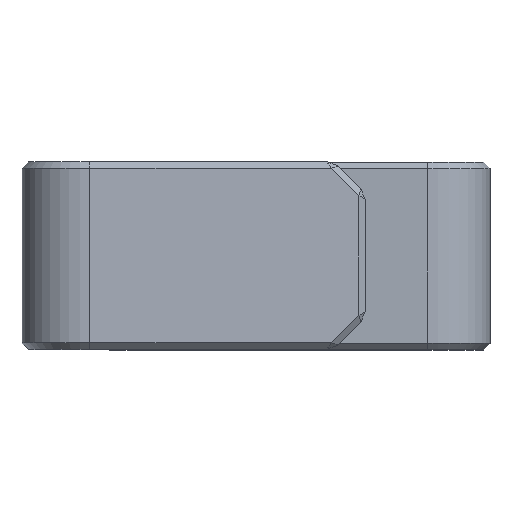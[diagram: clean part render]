
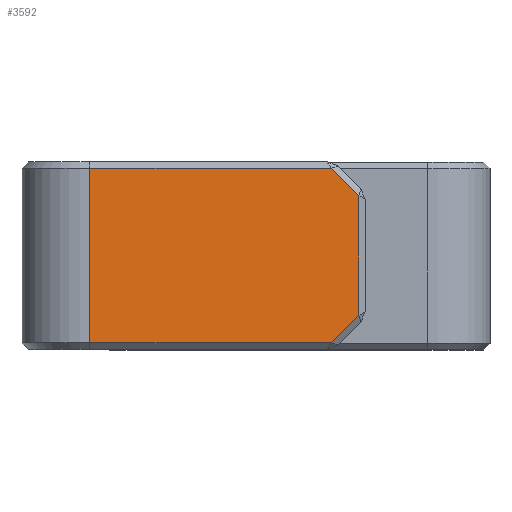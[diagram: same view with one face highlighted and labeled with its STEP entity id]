
A CAD part, top view. The second image highlights one B-rep face of the part: STEP entity #3592.
In plain terms, the highlighted planar face has unit normal (0.087, 0, 0.996).
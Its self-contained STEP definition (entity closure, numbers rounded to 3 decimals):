
#163=PLANE('',#3856);
#353=FACE_OUTER_BOUND('',#575,.T.);
#575=EDGE_LOOP('',(#2986,#2987,#2988,#2989,#2990,#2991));
#1004=LINE('',#7099,#1375);
#1006=LINE('',#7102,#1377);
#1011=LINE('',#7110,#1382);
#1022=LINE('',#7126,#1393);
#1031=LINE('',#7142,#1402);
#1046=LINE('',#7521,#1417);
#1375=VECTOR('',#4502,10.);
#1377=VECTOR('',#4506,10.);
#1382=VECTOR('',#4517,10.);
#1393=VECTOR('',#4538,10.);
#1402=VECTOR('',#4557,10.);
#1417=VECTOR('',#4596,10.);
#1660=VERTEX_POINT('',#6869);
#1681=VERTEX_POINT('',#6941);
#1692=VERTEX_POINT('',#6967);
#1718=VERTEX_POINT('',#7069);
#1723=VERTEX_POINT('',#7095);
#1725=VERTEX_POINT('',#7140);
#2141=EDGE_CURVE('',#1723,#1718,#1004,.T.);
#2143=EDGE_CURVE('',#1718,#1692,#1006,.T.);
#2148=EDGE_CURVE('',#1692,#1681,#1011,.T.);
#2159=EDGE_CURVE('',#1681,#1660,#1022,.T.);
#2168=EDGE_CURVE('',#1660,#1725,#1031,.T.);
#2192=EDGE_CURVE('',#1725,#1723,#1046,.T.);
#2986=ORIENTED_EDGE('',*,*,#2168,.F.);
#2987=ORIENTED_EDGE('',*,*,#2159,.F.);
#2988=ORIENTED_EDGE('',*,*,#2148,.F.);
#2989=ORIENTED_EDGE('',*,*,#2143,.F.);
#2990=ORIENTED_EDGE('',*,*,#2141,.F.);
#2991=ORIENTED_EDGE('',*,*,#2192,.F.);
#3592=ADVANCED_FACE('',(#353),#163,.T.);
#3856=AXIS2_PLACEMENT_3D('',#7520,#4594,#4595);
#4502=DIRECTION('',(0.996,0.,-0.087));
#4506=DIRECTION('',(0.706,-0.706,-0.062));
#4517=DIRECTION('',(0.,-1.,0.));
#4538=DIRECTION('',(-0.706,-0.706,0.062));
#4557=DIRECTION('',(-0.996,0.,0.087));
#4594=DIRECTION('center_axis',(0.087,0.,0.996));
#4595=DIRECTION('ref_axis',(0.996,0.,-0.087));
#4596=DIRECTION('',(0.,1.,0.));
#6869=CARTESIAN_POINT('',(99.588,63.123,48.662));
#6941=CARTESIAN_POINT('',(104.004,67.538,48.275));
#6967=CARTESIAN_POINT('',(104.004,86.708,48.275));
#7069=CARTESIAN_POINT('',(99.588,91.123,48.662));
#7095=CARTESIAN_POINT('',(60.872,91.123,52.049));
#7099=CARTESIAN_POINT('',(70.8,91.123,51.18));
#7102=CARTESIAN_POINT('',(95.921,94.791,48.982));
#7110=CARTESIAN_POINT('',(104.004,62.123,48.275));
#7126=CARTESIAN_POINT('',(88.449,51.984,49.636));
#7140=CARTESIAN_POINT('',(60.872,63.123,52.049));
#7142=CARTESIAN_POINT('',(70.8,63.123,51.18));
#7520=CARTESIAN_POINT('Origin',(50.,62.123,53.));
#7521=CARTESIAN_POINT('',(60.872,62.123,52.049));
